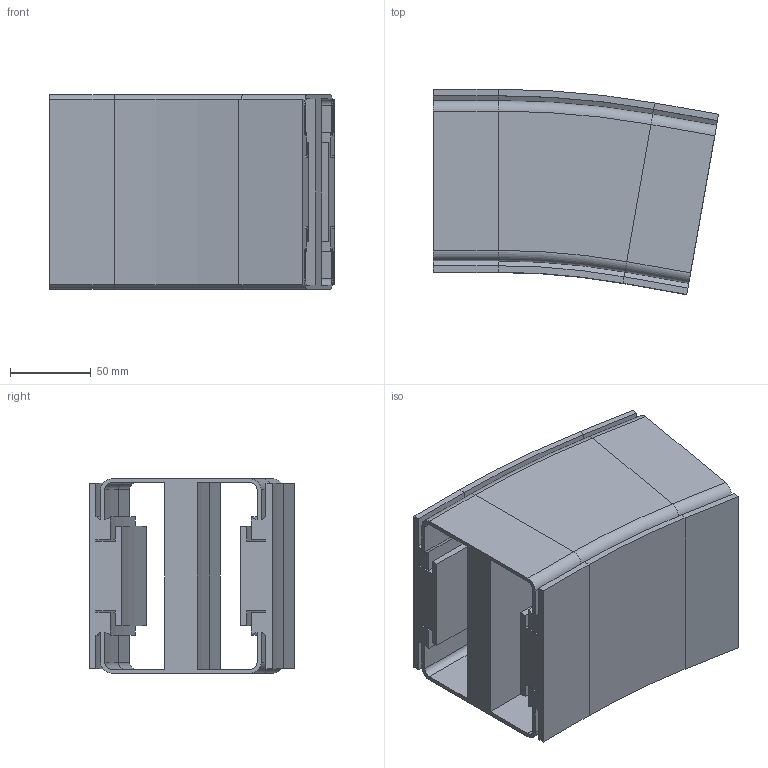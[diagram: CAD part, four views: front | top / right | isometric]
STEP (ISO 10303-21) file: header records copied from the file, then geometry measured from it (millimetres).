
FILE_DESCRIPTION (( 'STEP AP214' ), '1' );
FILE_NAME ('VC.120 Verticale bochtsectie.R500 10.STEP', '2017-02-08T08:10:07', ( '' ), ( '' ), 'SwSTEP 2.0', 'SolidWorks 2016', '' );
FILE_SCHEMA (( 'AUTOMOTIVE_DESIGN' ));
Length unit declared in the file: millimetre
Products named in the file (1): VC.120 Verticale bochtsectie.R500 10
Bounding box: 176.03 x 126.68 x 120 mm (x, y, z)
Volume: 986224.8 mm3; surface area: 250265.2 mm2
Topology: 1 solids, 1 shells, 206 faces, 476 edges, 272 vertices
Faces by surface type: plane 144, cylinder 46, cone 8, torus 8
Entity records: 5674 total; most frequent: DIRECTION 990, CARTESIAN_POINT 955, ORIENTED_EDGE 952, EDGE_CURVE 476, VECTOR 376, LINE 376, AXIS2_PLACEMENT_3D 307, VERTEX_POINT 272
